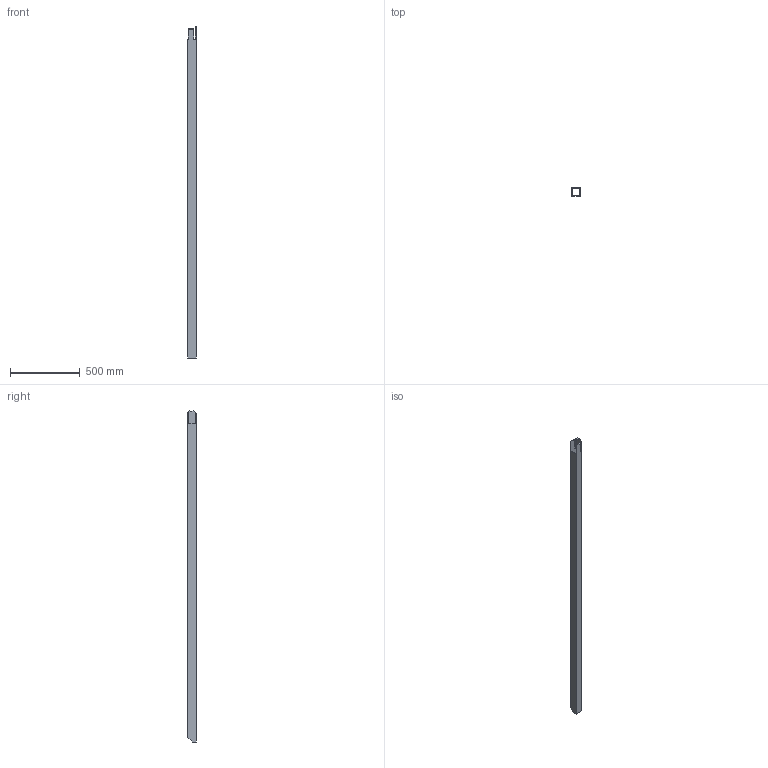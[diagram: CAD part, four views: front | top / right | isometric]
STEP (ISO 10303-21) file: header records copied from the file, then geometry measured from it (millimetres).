
FILE_DESCRIPTION(('Open CASCADE Model'),'2;1');
FILE_NAME('Open CASCADE Shape Model','2026-10-15T15:10:07',('Author'),( 'Open CASCADE'),'Open CASCADE STEP processor 8.0','Open CASCADE 8.0' ,'Unknown');
FILE_SCHEMA(('AUTOMOTIVE_DESIGN { 1 0 10303 214 1 1 1 1 }'));
Length unit declared in the file: millimetre
Products named in the file (1): SHS60x60x4_L2399437_P05_JUNTA_8 189
Bounding box: 60 x 60 x 2387.76 mm (x, y, z)
Volume: 2088040.8 mm3; surface area: 1048215 mm2
Topology: 1 solids, 1 shells, 31 faces, 91 edges, 60 vertices
Faces by surface type: plane 25, cylinder 6
Entity records: 2170 total; most frequent: CARTESIAN_POINT 533, DIRECTION 241, ORIENTED_EDGE 182, PCURVE 182, DEFINITIONAL_REPRESENTATION 182, LINE 141, VECTOR 141, B_SPLINE_CURVE_WITH_KNOTS 108
